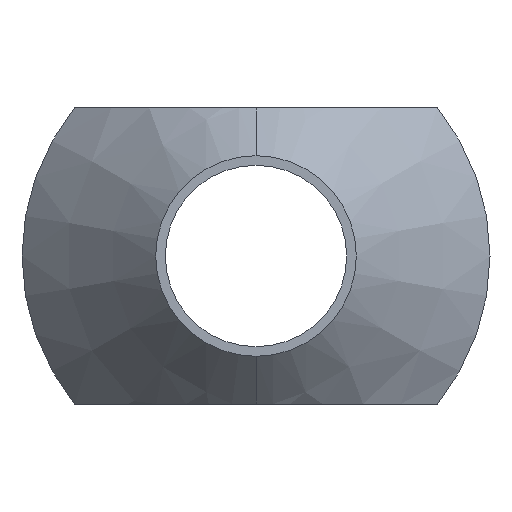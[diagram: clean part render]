
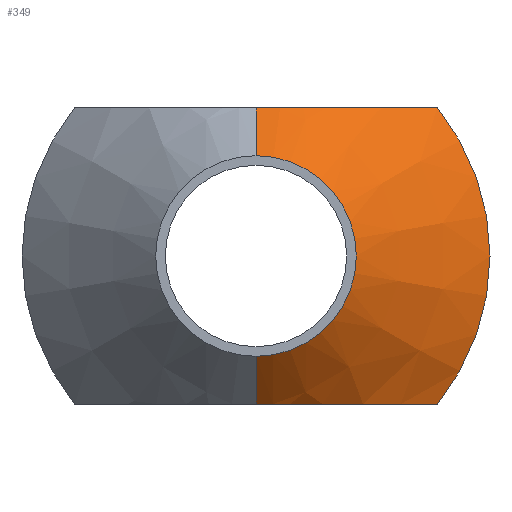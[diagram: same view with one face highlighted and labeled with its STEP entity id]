
A CAD part, front view. The second image highlights one B-rep face of the part: STEP entity #349.
In plain terms, the highlighted conical face has half-angle 45 degrees and reference radius 2.1 mm.
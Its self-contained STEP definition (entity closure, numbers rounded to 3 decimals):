
#2 = CARTESIAN_POINT ( 'NONE',  ( 0., 13.2, 3.1 ) ) ;
#16 = FACE_OUTER_BOUND ( 'NONE', #761, .T. ) ;
#32 = B_SPLINE_CURVE_WITH_KNOTS ( 'NONE', 3,
 ( #817, #660, #745, #521, #595, #743, #519, #252, #335, #516, #406, #381, #467, #450 ),
 .UNSPECIFIED., .F., .F.,
 ( 4, 2, 2, 2, 2, 2, 4 ),
 ( 0.016, 0.018, 0.019, 0.019, 0.02, 0.02, 0.021 ),
 .UNSPECIFIED. ) ;
#50 = CARTESIAN_POINT ( 'NONE',  ( 0., 12.2, -2.1 ) ) ;
#58 = CARTESIAN_POINT ( 'NONE',  ( 3.514, 14.782, 3.1 ) ) ;
#60 = CARTESIAN_POINT ( 'NONE',  ( 1.223, 13.429, 3.1 ) ) ;
#63 = ORIENTED_EDGE ( 'NONE', *, *, #217, .T. ) ;
#81 = EDGE_CURVE ( 'NONE', #473, #906, #366, .T. ) ;
#90 = ORIENTED_EDGE ( 'NONE', *, *, #81, .F. ) ;
#119 = EDGE_CURVE ( 'NONE', #821, #492, #525, .T. ) ;
#123 = CARTESIAN_POINT ( 'NONE',  ( 0., 12.2, 0. ) ) ;
#128 = ORIENTED_EDGE ( 'NONE', *, *, #669, .T. ) ;
#136 = CARTESIAN_POINT ( 'NONE',  ( 0.361, 13.216, 3.1 ) ) ;
#142 = DIRECTION ( 'NONE',  ( 0., 1., 0. ) ) ;
#146 = ORIENTED_EDGE ( 'NONE', *, *, #266, .F. ) ;
#148 = AXIS2_PLACEMENT_3D ( 'NONE', #123, #908, #615 ) ;
#159 = DIRECTION ( 'NONE',  ( 0., 0.707, 0.707 ) ) ;
#166 = VERTEX_POINT ( 'NONE', #352 ) ;
#197 = CARTESIAN_POINT ( 'NONE',  ( 0., 13.2, 3.1 ) ) ;
#217 = EDGE_CURVE ( 'NONE', #473, #540, #652, .T. ) ;
#226 = CARTESIAN_POINT ( 'NONE',  ( 0., 12.2, 2.1 ) ) ;
#233 = VECTOR ( 'NONE', #159, 1000. ) ;
#239 = CARTESIAN_POINT ( 'NONE',  ( 0., 13.2, -3.1 ) ) ;
#252 = CARTESIAN_POINT ( 'NONE',  ( 1.391, 13.495, -3.1 ) ) ;
#266 = EDGE_CURVE ( 'NONE', #166, #540, #32, .T. ) ;
#270 = CARTESIAN_POINT ( 'NONE',  ( 2.644, 14.169, 3.1 ) ) ;
#273 = CARTESIAN_POINT ( 'NONE',  ( 0.181, 13.2, 3.1 ) ) ;
#282 = CARTESIAN_POINT ( 'NONE',  ( 0., 15., 0. ) ) ;
#335 = CARTESIAN_POINT ( 'NONE',  ( 1.223, 13.429, -3.1 ) ) ;
#341 = CARTESIAN_POINT ( 'NONE',  ( 1.878, 13.722, 3.1 ) ) ;
#349 = ADVANCED_FACE ( 'NONE', ( #16 ), #472, .T. ) ;
#352 = CARTESIAN_POINT ( 'NONE',  ( 3.795, 15., -3.1 ) ) ;
#354 = DIRECTION ( 'NONE',  ( 0., 0., -1. ) ) ;
#366 = CIRCLE ( 'NONE', #148, 2.1 ) ;
#381 = CARTESIAN_POINT ( 'NONE',  ( 0.361, 13.216, -3.1 ) ) ;
#406 = CARTESIAN_POINT ( 'NONE',  ( 0.711, 13.276, -3.1 ) ) ;
#413 = CARTESIAN_POINT ( 'NONE',  ( 1.391, 13.495, 3.1 ) ) ;
#439 = CARTESIAN_POINT ( 'NONE',  ( 0., 12.2, 2.1 ) ) ;
#450 = CARTESIAN_POINT ( 'NONE',  ( 0., 13.2, -3.1 ) ) ;
#464 = ORIENTED_EDGE ( 'NONE', *, *, #903, .F. ) ;
#467 = CARTESIAN_POINT ( 'NONE',  ( 0.181, 13.2, -3.1 ) ) ;
#472 = CONICAL_SURFACE ( 'NONE', #603, 2.1, 0.785 ) ;
#473 = VERTEX_POINT ( 'NONE', #520 ) ;
#475 = ORIENTED_EDGE ( 'NONE', *, *, #119, .F. ) ;
#484 = CARTESIAN_POINT ( 'NONE',  ( 0.883, 13.319, 3.1 ) ) ;
#490 = DIRECTION ( 'NONE',  ( 0., 0., 1. ) ) ;
#492 = VERTEX_POINT ( 'NONE', #670 ) ;
#504 = VECTOR ( 'NONE', #909, 1000. ) ;
#516 = CARTESIAN_POINT ( 'NONE',  ( 0.883, 13.319, -3.1 ) ) ;
#519 = CARTESIAN_POINT ( 'NONE',  ( 1.718, 13.641, -3.1 ) ) ;
#520 = CARTESIAN_POINT ( 'NONE',  ( 0., 12.2, -2.1 ) ) ;
#521 = CARTESIAN_POINT ( 'NONE',  ( 2.644, 14.169, -3.1 ) ) ;
#525 = B_SPLINE_CURVE_WITH_KNOTS ( 'NONE', 3,
 ( #197, #273, #136, #625, #484, #60, #413, #916, #341, #847, #270, #776, #58, #623 ),
 .UNSPECIFIED., .F., .F.,
 ( 4, 2, 2, 2, 2, 2, 4 ),
 ( 0.01, 0.01, 0.011, 0.012, 0.012, 0.013, 0.014 ),
 .UNSPECIFIED. ) ;
#540 = VERTEX_POINT ( 'NONE', #239 ) ;
#588 = CIRCLE ( 'NONE', #843, 4.9 ) ;
#595 = CARTESIAN_POINT ( 'NONE',  ( 2.345, 13.978, -3.1 ) ) ;
#603 = AXIS2_PLACEMENT_3D ( 'NONE', #709, #142, #490 ) ;
#613 = LINE ( 'NONE', #226, #233 ) ;
#615 = DIRECTION ( 'NONE',  ( 0., 0., -1. ) ) ;
#623 = CARTESIAN_POINT ( 'NONE',  ( 3.795, 15., 3.1 ) ) ;
#625 = CARTESIAN_POINT ( 'NONE',  ( 0.711, 13.276, 3.1 ) ) ;
#652 = LINE ( 'NONE', #50, #504 ) ;
#660 = CARTESIAN_POINT ( 'NONE',  ( 3.514, 14.782, -3.1 ) ) ;
#669 = EDGE_CURVE ( 'NONE', #166, #492, #588, .T. ) ;
#670 = CARTESIAN_POINT ( 'NONE',  ( 3.795, 15., 3.1 ) ) ;
#709 = CARTESIAN_POINT ( 'NONE',  ( 0., 12.2, 0. ) ) ;
#743 = CARTESIAN_POINT ( 'NONE',  ( 1.878, 13.722, -3.1 ) ) ;
#745 = CARTESIAN_POINT ( 'NONE',  ( 3.228, 14.571, -3.1 ) ) ;
#761 = EDGE_LOOP ( 'NONE', ( #90, #63, #146, #128, #475, #464 ) ) ;
#776 = CARTESIAN_POINT ( 'NONE',  ( 3.228, 14.571, 3.1 ) ) ;
#790 = DIRECTION ( 'NONE',  ( 0., -1., 0. ) ) ;
#817 = CARTESIAN_POINT ( 'NONE',  ( 3.795, 15., -3.1 ) ) ;
#821 = VERTEX_POINT ( 'NONE', #2 ) ;
#843 = AXIS2_PLACEMENT_3D ( 'NONE', #282, #790, #354 ) ;
#847 = CARTESIAN_POINT ( 'NONE',  ( 2.345, 13.978, 3.1 ) ) ;
#903 = EDGE_CURVE ( 'NONE', #906, #821, #613, .T. ) ;
#906 = VERTEX_POINT ( 'NONE', #439 ) ;
#908 = DIRECTION ( 'NONE',  ( 0., -1., 0. ) ) ;
#909 = DIRECTION ( 'NONE',  ( 0., 0.707, -0.707 ) ) ;
#916 = CARTESIAN_POINT ( 'NONE',  ( 1.718, 13.641, 3.1 ) ) ;
